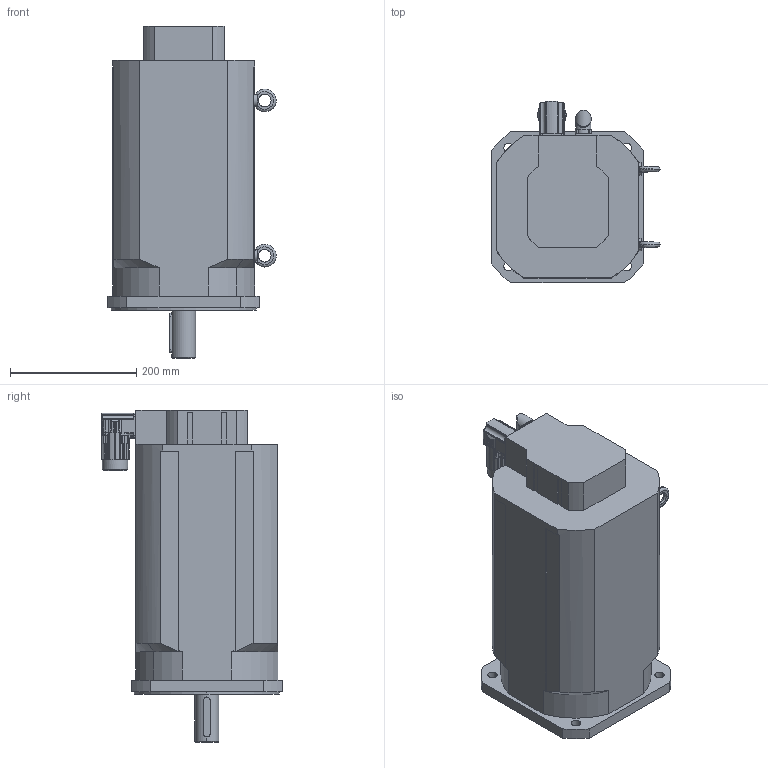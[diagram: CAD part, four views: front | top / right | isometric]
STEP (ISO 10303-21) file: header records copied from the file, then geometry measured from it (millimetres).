
FILE_DESCRIPTION(('STEP AP203'),'2;1');
FILE_NAME('MT8-0930.stp','2006-08-28T20:32:01',(''),(''),'2005.2.102','THINKDESIGN','');
FILE_SCHEMA(('CONFIG_CONTROL_DESIGN'));
Length unit declared in the file: millimetre
Bounding box: 266.5 x 287.18 x 526 mm (x, y, z)
Volume: 19847586 mm3; surface area: 527582 mm2
Topology: 5 solids, 5 shells, 540 faces, 1452 edges, 933 vertices
Faces by surface type: cylinder 257, plane 192, bspline 91
Full cylindrical faces by diameter (mm): 23 x1, 37.8 x1, 40 x1
Entity records: 19457 total; most frequent: CARTESIAN_POINT 6040, ORIENTED_EDGE 2892, DIRECTION 2772, EDGE_CURVE 1446, AXIS2_PLACEMENT_3D 1051, VERTEX_POINT 933, VECTOR 670, LINE 670
